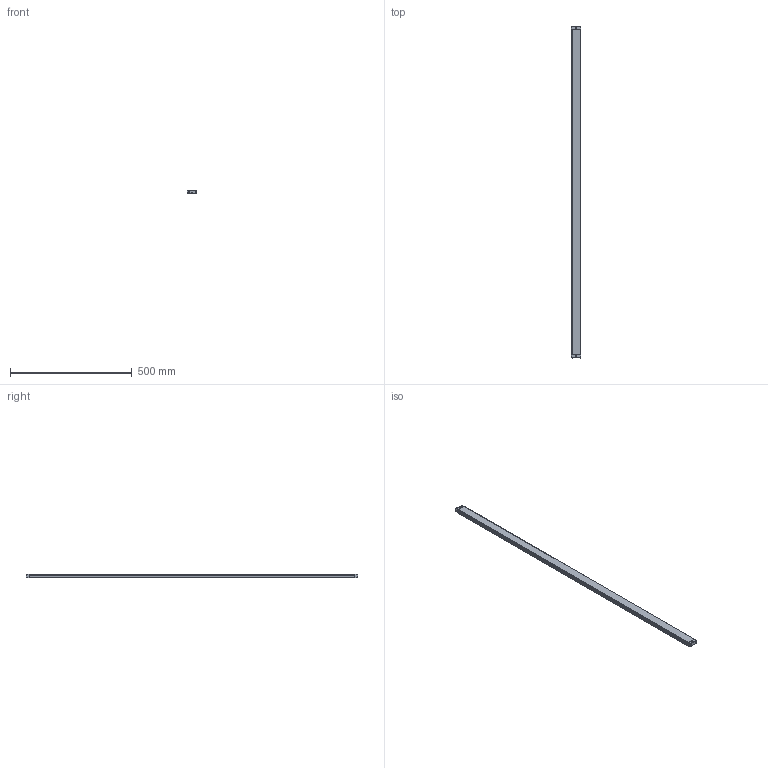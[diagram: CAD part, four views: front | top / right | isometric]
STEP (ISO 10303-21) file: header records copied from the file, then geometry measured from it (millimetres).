
FILE_DESCRIPTION((''),'2;1');
FILE_NAME('EB15--3610_ASM','2021-07-22T11:33:16',('18720616900'),(''),'CREO PARAMETRIC BY PTC INC, 2019010','CREO PARAMETRIC BY PTC INC, 2019010','');
FILE_SCHEMA(('CONFIG_CONTROL_DESIGN'));
Length unit declared in the file: millimetre
Products named in the file (6): EB15-00; EB15-000; EB15-0003; EB15-0004; ST-3-12; EB15--3610_ASM
Assembly tree (12 placements, depth 2):
  EB15--3610_ASM
    EB15-00
    EB15-000
    EB15-0003
    EB15-0004
    ST-3-12  x8
Bounding box: 39.15 x 1365 x 15.8 mm (x, y, z)
Volume: 820701.9 mm3; surface area: 196938.4 mm2
Topology: 12 solids, 12 shells, 827 faces, 2188 edges, 1368 vertices
Faces by surface type: plane 242, bspline 188, cone 176, cylinder 165, torus 40, sphere 16
Entity records: 16044 total; most frequent: CARTESIAN_POINT 7660, ORIENTED_EDGE 1804, DIRECTION 1603, EDGE_CURVE 902, AXIS2_PLACEMENT_3D 577, VERTEX_POINT 563, VECTOR 449, LINE 449
